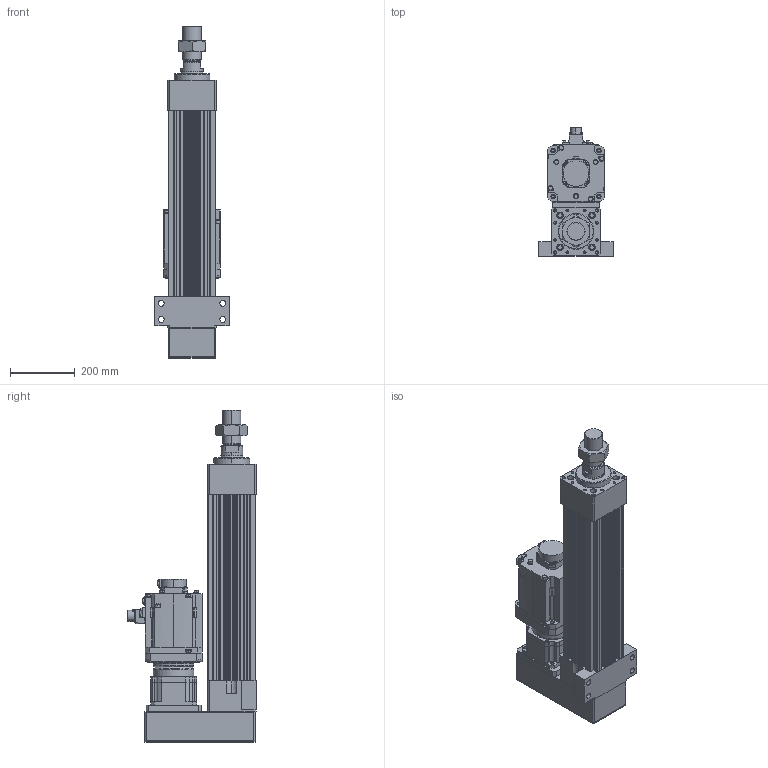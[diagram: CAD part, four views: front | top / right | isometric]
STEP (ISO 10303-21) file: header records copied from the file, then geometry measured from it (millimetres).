
FILE_DESCRIPTION (( 'STEP AP203' ), '1' );
FILE_NAME ('HES150NS(HS)-P300-W050G00-M-FFC.STEP', '2026-06-10T06:38:39', ( 'tms' ), ( '' ), 'SwSTEP 2.0', 'SolidWorks 2013', '' );
FILE_SCHEMA (( 'CONFIG_CONTROL_DESIGN' ));
Length unit declared in the file: millimetre
Products named in the file (9): HES150-M-ROD-300; HES150NS(HS)-P300-W050G00-M-FFC; AB1422; HG-SR502B; HES150-P-G142; HES150-FFC-300; AB1421; M56X2.0P; AB1423
Assembly tree (8 placements, depth 2):
  HES150NS(HS)-P300-W050G00-M-FFC
    HES150-FFC-300
    HES150-M-ROD-300
    M56X2.0P
    HES150-P-G142
    HG-SR502B
    AB1421
    AB1422
    AB1423
Bounding box: 230 x 395.85 x 1026 mm (x, y, z)
Volume: 18802284 mm3; surface area: 1884209.9 mm2
Topology: 5 solids, 19 shells, 1536 faces, 4000 edges, 2590 vertices
Faces by surface type: cylinder 714, plane 584, cone 156, bspline 76, torus 6
Entity records: 56036 total; most frequent: CARTESIAN_POINT 16912, DIRECTION 8212, ORIENTED_EDGE 7878, EDGE_CURVE 3961, AXIS2_PLACEMENT_3D 3115, VERTEX_POINT 2590, LINE 1982, VECTOR 1982
